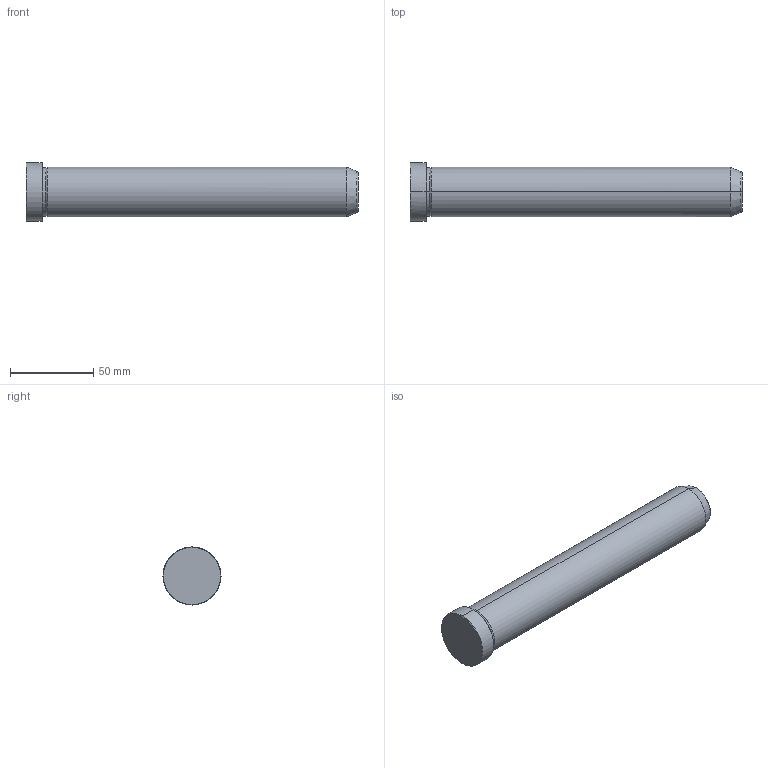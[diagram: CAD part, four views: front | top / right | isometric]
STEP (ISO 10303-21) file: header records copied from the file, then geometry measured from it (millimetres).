
FILE_DESCRIPTION(('CATIA V5 STEP Exchange'),'2;1');
FILE_NAME('C:\Users\Utente\Desktop\IO LAVORO\3D X SITO CF\X SITO\PLASTICA\549\549-30X200.stp','2021-12-17T14:37:49+00:00',('none'),('none'),'CATIA Version 5 Release 20 GA (IN-10)','CATIA V5 STEP AP203','none');
FILE_SCHEMA(('CONFIG_CONTROL_DESIGN'));
Length unit declared in the file: millimetre
Products named in the file (1): 549-30X200
Bounding box: 200 x 35 x 35 mm (x, y, z)
Volume: 142921.1 mm3; surface area: 20673.8 mm2
Topology: 1 solids, 1 shells, 19 faces, 56 edges, 40 vertices
Faces by surface type: cone 8, cylinder 6, plane 3, torus 2
Entity records: 736 total; most frequent: CARTESIAN_POINT 192, ORIENTED_EDGE 112, DIRECTION 86, EDGE_CURVE 56, AXIS2_PLACEMENT_3D 54, VERTEX_POINT 40, CIRCLE 34, EDGE_LOOP 20
